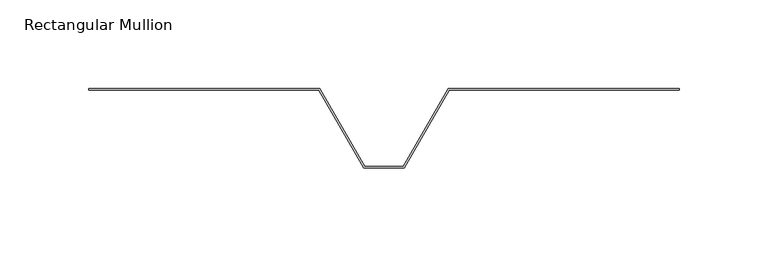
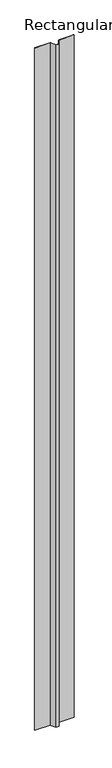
"""IFC4 building model written with IfcOpenShell, lengths in millimetres: member geometry, Rectangular Mullion : Parisienne 1000 - Metal - AZURO 0102."""

from ifc_helpers import new_model, si_unit, frame, origin, place, context, project, spatial, polyline, outline, extrude, source, transform, mapped, element, save


def rectangular_mullion_79018d10(model_context):
    return source(origin(), model_context, "Body", "SweptSolid", [
        extrude(outline(polyline([(11.5, -45.0), (-11.5, -45.0), (-36.9222222, -1.0), (-166.5, -1.0), (-166.5, 0.0), (-37.5, 0.0), (-36.3450856, 0.0), (-10.9228634, -44.0), (10.9228634, -44.0), (36.3450856, 0.0), (37.5, 0.0), (166.5, 0.0), (166.5, -1.0), (36.9222222, -1.0), (11.5, -45.0)])), frame((0.0, 0.0, -6092.5596713), z_axis=(0.0, 0.0, 1.0), x_axis=(1.0, 0.0, 0.0)), (0.0, 0.0, 1.0), 6092.5596713),
    ])


if __name__ == "__main__":
    model = new_model("IFC4")
    model_context = context("Model", 3, world=origin())
    ifc_project = project(units=[si_unit("LENGTHUNIT", "METRE", prefix="MILLI")], contexts=[model_context])
    site = spatial("IfcSite", under=ifc_project)
    building = spatial("IfcBuilding", under=site)
    placement = place(None, origin())
    rectangular_mullion_shape = rectangular_mullion_79018d10(model_context)
    element("IfcMember", 1, ObjectType="Rectangular Mullion : Parisienne 1000 - Metal - AZURO 0102", at=placement, inside=building, context=model_context, shape_type="MappedRepresentation", body=[
        mapped(rectangular_mullion_shape, transform((0.0, 0.0, 0.0), x_axis=(1.0, 0.0, 0.0), y_axis=(0.0, 1.0, 0.0), z_axis=(0.0, 0.0, 1.0))),
    ])
    save(model, "model.ifc")
